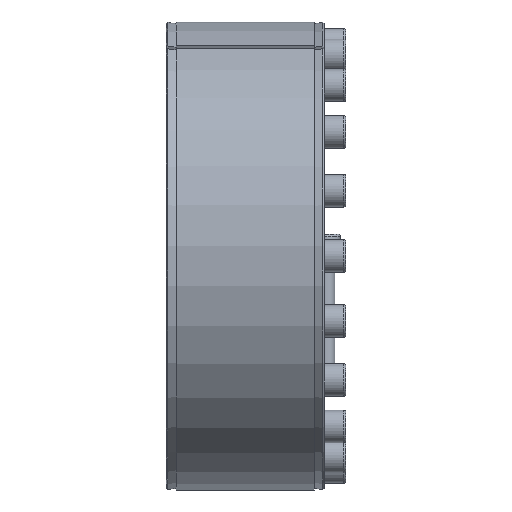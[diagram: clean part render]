
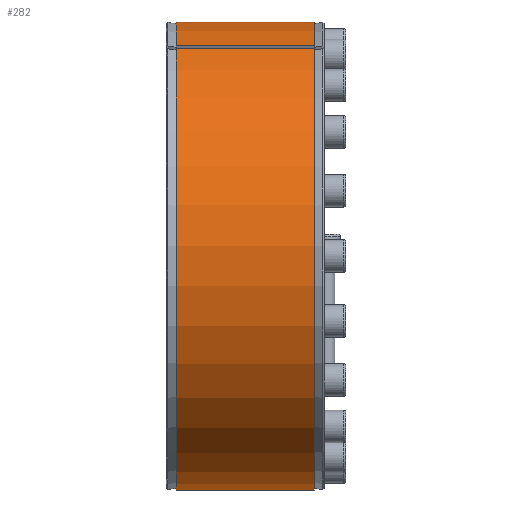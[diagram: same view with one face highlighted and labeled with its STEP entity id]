
A CAD part, left-side view. The second image highlights one B-rep face of the part: STEP entity #282.
In plain terms, the highlighted cylindrical face has radius 237.5 mm (diameter 475 mm), a partial arc.
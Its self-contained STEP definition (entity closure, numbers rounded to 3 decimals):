
#282 = ADVANCED_FACE( '', ( #746 ), #747, .T. );
#746 = FACE_OUTER_BOUND( '', #1238, .T. );
#747 = CYLINDRICAL_SURFACE( '', #1239, 237.5 );
#1238 = EDGE_LOOP( '', ( #2034, #2035, #2036, #2037 ) );
#1239 = AXIS2_PLACEMENT_3D( '', #2038, #2039, #2040 );
#2034 = ORIENTED_EDGE( '', *, *, #2286, .T. );
#2035 = ORIENTED_EDGE( '', *, *, #2168, .T. );
#2036 = ORIENTED_EDGE( '', *, *, #2358, .F. );
#2037 = ORIENTED_EDGE( '', *, *, #2334, .T. );
#2038 = CARTESIAN_POINT( '', ( 0., -60., 0. ) );
#2039 = DIRECTION( '', ( 0., 1., 0. ) );
#2040 = DIRECTION( '', ( 0., 0., -1. ) );
#2168 = EDGE_CURVE( '', #2525, #2523, #2526, .T. );
#2286 = EDGE_CURVE( '', #2734, #2525, #2735, .T. );
#2334 = EDGE_CURVE( '', #2804, #2734, #2805, .F. );
#2358 = EDGE_CURVE( '', #2804, #2523, #2837, .T. );
#2523 = VERTEX_POINT( '', #3148 );
#2525 = VERTEX_POINT( '', #3151 );
#2526 = LINE( '', #3152, #3153 );
#2734 = VERTEX_POINT( '', #3392 );
#2735 = CIRCLE( '', #3393, 237.5 );
#2804 = VERTEX_POINT( '', #3468 );
#2805 = LINE( '', #3469, #3470 );
#2837 = CIRCLE( '', #3524, 237.5 );
#3148 = CARTESIAN_POINT( '', ( -105.141, 10., 212.959 ) );
#3151 = CARTESIAN_POINT( '', ( -105.141, 150., 212.959 ) );
#3152 = CARTESIAN_POINT( '', ( -105.141, -60., 212.959 ) );
#3153 = VECTOR( '', #3665, 1000. );
#3392 = CARTESIAN_POINT( '', ( -110.487, 150., 210.235 ) );
#3393 = AXIS2_PLACEMENT_3D( '', #3928, #3929, #3930 );
#3468 = CARTESIAN_POINT( '', ( -110.487, 10., 210.235 ) );
#3469 = CARTESIAN_POINT( '', ( -110.487, -60., 210.235 ) );
#3470 = VECTOR( '', #3994, 1000. );
#3524 = AXIS2_PLACEMENT_3D( '', #4014, #4015, #4016 );
#3665 = DIRECTION( '', ( 0., -1., 0. ) );
#3928 = CARTESIAN_POINT( '', ( 0., 150., 0. ) );
#3929 = DIRECTION( '', ( 0., -1., 0. ) );
#3930 = DIRECTION( '', ( 0., 0., -1. ) );
#3994 = DIRECTION( '', ( 0., -1., 0. ) );
#4014 = CARTESIAN_POINT( '', ( 0., 10., 0. ) );
#4015 = DIRECTION( '', ( 0., -1., 0. ) );
#4016 = DIRECTION( '', ( 0., 0., -1. ) );
